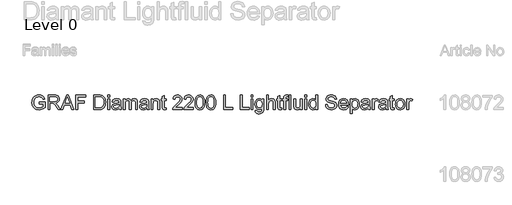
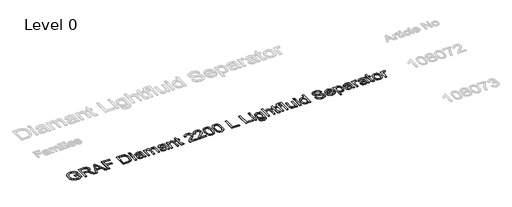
# One storey, part 5 of 8: 1 proxy.
"""IFC4 building model written with IfcOpenShell, lengths in millimetres."""

from ifc_helpers import new_model, si_unit, origin, origin_with_axes, place, context, project, spatial, polyline, outline, extrude, element, save

model = new_model("IFC4")

# Units and contexts
model_context = context("Model", 3, world=origin())
ifc_project = project(units=[si_unit("LENGTHUNIT", "METRE", prefix="MILLI")], contexts=[model_context])

# Site, building, storey
site = spatial("IfcSite", under=ifc_project)
building = spatial("IfcBuilding", under=site)
storey = spatial("IfcBuildingStorey", under=building, Name="Level 0", Elevation=0.0)

# Proxy
placement = place(None, origin())
element("IfcBuildingElementProxy", 1, Name="400mm Arial", ObjectType="400mm Arial", at=placement, inside=storey, context=model_context, shape_type="SweptSolid", body=[
    extrude(outline(polyline([(-14937.8149833, 10305.9861864), (-14937.8149833, 10356.2143415), (-14774.5734793, 10356.2143415), (-14774.5734793, 10206.0203856), (-14814.2434211, 10178.429236), (-14855.1641617, 10158.6371846), (-14897.2375993, 10146.717808), (-14940.3656318, 10142.7446824), (-14969.2167773, 10144.3235093), (-14996.7128907, 10149.05999), (-15022.8539722, 10156.9541245), (-15047.6400216, 10168.0059128), (-15070.2708957, 10182.0498079), (-15089.9464511, 10198.9202631), (-15106.6666877, 10218.6172783), (-15120.4316057, 10241.1408534), (-15131.182957, 10265.770553), (-15138.8624937, 10291.7859414), (-15143.4702157, 10319.1870187), (-15145.006123, 10347.9737848), (-15138.8870191, 10404.5662984), (-15131.2381393, 10431.3818302), (-15120.5297076, 10457.2102119), (-15106.9517963, 10480.9171408), (-15090.6944778, 10501.3683141), (-15071.7577521, 10518.5637317), (-15050.1416192, 10532.5033936), (-15026.3151286, 10543.2762047), (-15000.74733, 10550.9710698), (-14973.4382232, 10555.5879888), (-14944.3878083, 10557.1269618), (-14903.0133466, 10553.5585065), (-14865.8082141, 10542.8531404), (-14834.4769309, 10525.7834158), (-14810.7240167, 10503.1218849), (-14793.1515201, 10473.7771644), (-14780.3614894, 10436.6578711), (-14826.6655698, 10423.610323), (-14837.0030539, 10450.0855639), (-14849.5723554, 10470.0615563), (-14866.2006216, 10485.1201926), (-14888.7149997, 10496.8433655), (-14915.5581226, 10504.3849464), (-14945.1726232, 10506.8988067), (-14979.8393699, 10504.1887427), (-15009.478396, 10496.0585506), (-15033.9793369, 10483.5260373), (-15053.2318279, 10467.6090096), (-15068.0084214, 10449.1290708), (-15079.0816695, 10428.9078238), (-15090.8538933, 10390.9914528), (-15094.7779679, 10350.033924), (-15090.0568157, 10302.0007981), (-15075.8933588, 10262.4780091), (-15052.7167931, 10231.7475998), (-15020.9563142, 10210.091613), (-14983.78797, 10197.2525314), (-14944.3878083, 10192.9728375), (-14909.5984343, 10196.1979363), (-14875.6674516, 10205.8732328), (-14846.2001038, 10219.2028238), (-14824.8016344, 10233.390806), (-14824.8016344, 10305.9861864), (-14937.8149833, 10305.9861864)])), origin_with_axes(), (0.0, 0.0, 1.0), 5.0),
    extrude(outline(polyline([(-14692.9527273, 10149.0232018), (-14692.9527273, 10550.8484424), (-14519.8029349, 10550.8484424), (-14473.2658625, 10548.1383784), (-14439.4084563, 10540.0081863), (-14414.6622607, 10524.9986009), (-14395.4588206, 10501.6503569), (-14383.1347737, 10472.6980439), (-14379.0267581, 10440.8762513), (-14380.7282123, 10420.2380714), (-14385.832575, 10401.2921486), (-14394.3398462, 10384.0384831), (-14406.2500258, 10368.4770747), (-14421.716398, 10355.1045642), (-14440.892247, 10344.4175922), (-14463.7775727, 10336.4161588), (-14490.3723753, 10331.100264), (-14461.8247325, 10309.6159554), (-14421.1124584, 10257.9162724), (-14354.1088843, 10149.0232018), (-14412.4794942, 10149.0232018), (-14464.7677885, 10232.3116855), (-14502.5370066, 10287.4449339), (-14516.5778361, 10303.5213771), (-14529.0735612, 10313.4909791), (-14552.9613654, 10323.055911), (-14582.0976194, 10324.8217446), (-14642.7245723, 10324.8217446), (-14642.7245723, 10149.0232018), (-14692.9527273, 10149.0232018)]), holes=[polyline([(-14642.7245723, 10375.0498997), (-14530.2998345, 10375.0498997), (-14498.0120581, 10376.827996), (-14472.9592942, 10382.1622849), (-14454.0992106, 10391.4083857), (-14440.3894749, 10404.9219177), (-14432.0385536, 10421.268141), (-14429.2549132, 10439.0123159), (-14434.5646766, 10463.5132568), (-14450.493967, 10483.2562572), (-14462.6555327, 10490.8530204), (-14477.9011757, 10496.2792798), (-14517.6446939, 10500.6202873), (-14642.7245723, 10500.6202873), (-14642.7245723, 10375.0498997)])]), origin_with_axes(), (0.0, 0.0, 1.0), 5.0),
    extrude(outline(polyline([(-14337.9220765, 10149.0232018), (-14177.5255266, 10550.8484424), (-14134.7531133, 10550.8484424), (-13974.3565634, 10149.0232018), (-14027.4296726, 10149.0232018), (-14073.4394475, 10274.5935895), (-14238.9372943, 10274.5935895), (-14284.8489673, 10149.0232018), (-14337.9220765, 10149.0232018)]), holes=[polyline([(-14220.4941437, 10324.8217446), (-14091.7844963, 10324.8217446), (-14127.9840846, 10423.610323), (-14156.13932, 10500.6202873), (-14181.1552956, 10432.2432872), (-14220.4941437, 10324.8217446)])]), origin_with_axes(), (0.0, 0.0, 1.0), 5.0),
    extrude(outline(polyline([(-13920.6948431, 10149.0232018), (-13920.6948431, 10550.8484424), (-13650.7185095, 10550.8484424), (-13650.7185095, 10500.6202873), (-13870.466688, 10500.6202873), (-13870.466688, 10381.328419), (-13682.1111064, 10381.328419), (-13682.1111064, 10331.100264), (-13870.466688, 10331.100264), (-13870.466688, 10149.0232018), (-13920.6948431, 10149.0232018)])), origin_with_axes(), (0.0, 0.0, 1.0), 5.0),
    extrude(outline(polyline([(-13424.6918117, 10149.0232018), (-13424.6918117, 10550.8484424), (-13286.0738759, 10550.8484424), (-13244.6503633, 10549.4014399), (-13214.3614123, 10545.0604324), (-13182.3311533, 10533.9013452), (-13155.3040894, 10516.3165858), (-13127.516736, 10485.7088038), (-13107.7246846, 10447.64528), (-13095.8788844, 10402.8617785), (-13091.9302843, 10352.0940632), (-13094.6035602, 10308.9660306), (-13102.6233876, 10271.0128714), (-13114.8370699, 10238.7005695), (-13130.09191, 10212.4951087), (-13147.6521439, 10191.8078779), (-13166.7820076, 10176.0502657), (-13188.7445627, 10164.363881), (-13214.8028707, 10155.8903324), (-13245.0059825, 10150.7399845), (-13279.4029491, 10149.0232018), (-13424.6918117, 10149.0232018)]), holes=[polyline([(-13374.4636566, 10199.2513569), (-13285.5833666, 10199.2513569), (-13248.8196925, 10201.0662414), (-13220.9342373, 10206.5108949), (-13199.8913872, 10215.2664864), (-13183.6555284, 10227.0141848), (-13166.2056591, 10248.7560107), (-13153.0967974, 10276.8989833), (-13144.8930289, 10311.56573), (-13142.1584394, 10352.8788781), (-13147.5172538, 10407.619719), (-13154.2157718, 10429.6190623), (-13163.593697, 10448.0376875), (-13187.3466111, 10475.8005154), (-13215.7348384, 10492.5759344), (-13244.6258378, 10498.6091991), (-13286.9567927, 10500.6202873), (-13374.4636566, 10500.6202873), (-13374.4636566, 10199.2513569)])]), origin_with_axes(), (0.0, 0.0, 1.0), 5.0),
    extrude(outline(polyline([(-13029.1450905, 10500.6202873), (-13029.1450905, 10550.8484424), (-12978.9169354, 10550.8484424), (-12978.9169354, 10500.6202873), (-13029.1450905, 10500.6202873)])), origin_with_axes(), (0.0, 0.0, 1.0), 5.0),
    extrude(outline(polyline([(-13029.1450905, 10149.0232018), (-13029.1450905, 10444.1136129), (-12978.9169354, 10444.1136129), (-12978.9169354, 10149.0232018), (-13029.1450905, 10149.0232018)])), origin_with_axes(), (0.0, 0.0, 1.0), 5.0),
    extrude(outline(polyline([(-12715.2191213, 10186.6943181), (-12739.2172901, 10166.1174519), (-12763.9266974, 10152.6529708), (-12789.911429, 10145.2217545), (-12817.7355706, 10142.7446824), (-12840.0997302, 10144.2346045), (-12859.7109062, 10148.7043708), (-12876.5690987, 10156.1539812), (-12890.6743075, 10166.5834357), (-12901.8119349, 10179.3305469), (-12909.767383, 10193.733127), (-12914.5406519, 10209.7911761), (-12916.1317416, 10227.5046941), (-12913.7282459, 10248.3268151), (-12906.5177588, 10267.2359496), (-12895.3954598, 10283.4227574), (-12881.2565284, 10296.077898), (-12864.640525, 10305.6428299), (-12846.0870097, 10312.5590114), (-12802.6278833, 10320.112855), (-12751.2715568, 10328.0591061), (-12715.5134269, 10337.3787834), (-12715.2191213, 10348.562396), (-12718.677212, 10370.9786722), (-12729.0514843, 10385.6449011), (-12752.2525754, 10396.5342082), (-12784.5771401, 10400.1639772), (-12814.498209, 10397.7482188), (-12835.3939063, 10390.5009435), (-12849.6432023, 10377.0977761), (-12859.6250671, 10356.2143415), (-12909.8532222, 10362.4928609), (-12901.1344189, 10389.9613832), (-12888.123659, 10411.5437936), (-12869.6069319, 10428.0494324), (-12844.370227, 10440.2876401), (-12813.5049276, 10447.8660092), (-12778.102417, 10450.3921323), (-12744.1469088, 10448.1603148), (-12717.2302095, 10441.4648625), (-12696.9353861, 10431.3971586), (-12682.8455057, 10419.0485863), (-12673.501303, 10403.7814835), (-12667.4435128, 10384.9581881), (-12664.9909662, 10341.0085524), (-12664.9909662, 10278.5176641), (-12662.4403177, 10191.2560549), (-12652.4339274, 10149.0232018), (-12702.6620825, 10149.0232018), (-12710.7064355, 10166.4853339), (-12715.2191213, 10186.6943181)]), holes=[polyline([(-12715.2191213, 10287.1506283), (-12748.9661629, 10278.7874443), (-12796.2512621, 10271.7486354), (-12839.4651338, 10263.6061806), (-12850.7100601, 10258.0388997), (-12859.0364559, 10250.3624288), (-12864.1868038, 10241.1653789), (-12865.9035865, 10231.0363613), (-12862.1634529, 10216.1003523), (-12850.943052, 10203.8621446), (-12832.4876386, 10195.6951643), (-12807.0424673, 10192.9728375), (-12780.0644543, 10195.9772071), (-12756.225701, 10204.990316), (-12736.8996335, 10218.270856), (-12723.459678, 10234.0775191), (-12717.4999896, 10250.3624288), (-12715.5134269, 10272.9258578), (-12715.2191213, 10287.1506283)])]), origin_with_axes(), (0.0, 0.0, 1.0), 5.0),
    extrude(outline(polyline([(-12595.927253, 10149.0232018), (-12595.927253, 10444.1136129), (-12545.6990979, 10444.1136129), (-12545.6990979, 10395.5531895), (-12530.5914106, 10417.8591012), (-12511.1672413, 10435.3334959), (-12488.0887774, 10446.6274732), (-12462.0182067, 10450.3921323), (-12434.0837005, 10446.5538968), (-12411.6919498, 10435.0391903), (-12394.9655817, 10416.6083024), (-12384.0272237, 10392.0215224), (-12365.7189631, 10417.5586642), (-12344.8355285, 10435.7994798), (-12321.37692, 10446.7439692), (-12295.3431374, 10450.3921323), (-12275.2353207, 10448.874619), (-12257.586182, 10444.3220794), (-12242.3957213, 10436.7345132), (-12229.6639386, 10426.1119206), (-12219.5993003, 10412.3316742), (-12212.410273, 10395.2711467), (-12208.0968566, 10374.930338), (-12206.6590511, 10351.3092482), (-12206.6590511, 10149.0232018), (-12256.8872062, 10149.0232018), (-12256.8872062, 10329.7268379), (-12258.0521659, 10354.7796017), (-12261.5470448, 10371.6653853), (-12268.0953443, 10383.2291427), (-12278.4205657, 10392.315828), (-12291.7011057, 10398.2019399), (-12307.1153613, 10400.1639772), (-12334.3263662, 10395.1362566), (-12356.5096505, 10380.0530948), (-12365.1150235, 10368.483206), (-12371.2617185, 10353.8844222), (-12376.1790745, 10315.6001692), (-12376.1790745, 10149.0232018), (-12426.4072296, 10149.0232018), (-12426.4072296, 10335.3186442), (-12429.3134973, 10363.7191342), (-12438.0323006, 10383.9771694), (-12453.3729798, 10396.1172752), (-12476.1448753, 10400.1639772), (-12495.4954683, 10397.4661759), (-12513.3254823, 10389.372772), (-12528.0407621, 10376.0799692), (-12538.0471524, 10357.7839714), (-12543.7861115, 10332.4001137), (-12545.6990979, 10297.8437316), (-12545.6990979, 10149.0232018), (-12595.927253, 10149.0232018)])), origin_with_axes(), (0.0, 0.0, 1.0), 5.0),
    extrude(outline(polyline([(-11942.961237, 10186.6943181), (-11966.9594058, 10166.1174519), (-11991.6688131, 10152.6529708), (-12017.6535447, 10145.2217545), (-12045.4776863, 10142.7446824), (-12067.8418459, 10144.2346045), (-12087.453022, 10148.7043708), (-12104.3112144, 10156.1539812), (-12118.4164232, 10166.5834357), (-12129.5540506, 10179.3305469), (-12137.5094988, 10193.733127), (-12142.2827677, 10209.7911761), (-12143.8738573, 10227.5046941), (-12141.4703616, 10248.3268151), (-12134.2598745, 10267.2359496), (-12123.1375755, 10283.4227574), (-12108.9986441, 10296.077898), (-12092.3826407, 10305.6428299), (-12073.8291254, 10312.5590114), (-12030.369999, 10320.112855), (-11979.0136725, 10328.0591061), (-11943.2555426, 10337.3787834), (-11942.961237, 10348.562396), (-11946.4193277, 10370.9786722), (-11956.7936, 10385.6449011), (-11979.9946912, 10396.5342082), (-12012.3192558, 10400.1639772), (-12042.2403247, 10397.7482188), (-12063.1360221, 10390.5009435), (-12077.385318, 10377.0977761), (-12087.3671828, 10356.2143415), (-12137.5953379, 10362.4928609), (-12128.8765346, 10389.9613832), (-12115.8657747, 10411.5437936), (-12097.3490476, 10428.0494324), (-12072.1123428, 10440.2876401), (-12041.2470434, 10447.8660092), (-12005.8445327, 10450.3921323), (-11971.8890245, 10448.1603148), (-11944.9723252, 10441.4648625), (-11924.6775018, 10431.3971586), (-11910.5876214, 10419.0485863), (-11901.2434187, 10403.7814835), (-11895.1856285, 10384.9581881), (-11892.7330819, 10341.0085524), (-11892.7330819, 10278.5176641), (-11890.1824334, 10191.2560549), (-11880.1760431, 10149.0232018), (-11930.4041982, 10149.0232018), (-11938.4485512, 10166.4853339), (-11942.961237, 10186.6943181)]), holes=[polyline([(-11942.961237, 10287.1506283), (-11976.7082787, 10278.7874443), (-12023.9933778, 10271.7486354), (-12067.2072495, 10263.6061806), (-12078.4521758, 10258.0388997), (-12086.7785716, 10250.3624288), (-12091.9289196, 10241.1653789), (-12093.6457022, 10231.0363613), (-12089.9055686, 10216.1003523), (-12078.6851677, 10203.8621446), (-12060.2297543, 10195.6951643), (-12034.784583, 10192.9728375), (-12007.80657, 10195.9772071), (-11983.9678167, 10204.990316), (-11964.6417492, 10218.270856), (-11951.2017937, 10234.0775191), (-11945.2421054, 10250.3624288), (-11943.2555426, 10272.9258578), (-11942.961237, 10287.1506283)])]), origin_with_axes(), (0.0, 0.0, 1.0), 5.0),
    extrude(outline(polyline([(-11823.6693687, 10149.0232018), (-11823.6693687, 10444.1136129), (-11773.4412136, 10444.1136129), (-11773.4412136, 10402.9108294), (-11755.9913443, 10423.6838994), (-11735.0343333, 10438.5218066), (-11710.5701806, 10447.4245508), (-11682.5988863, 10450.3921323), (-11657.840428, 10448.0008993), (-11635.1666344, 10440.8272004), (-11616.2574998, 10429.7662151), (-11602.7930188, 10415.7131229), (-11593.6572826, 10398.7047119), (-11587.7343824, 10378.7777705), (-11585.0856321, 10330.2173472), (-11585.0856321, 10149.0232018), (-11635.3137871, 10149.0232018), (-11635.3137871, 10323.4483185), (-11636.7607897, 10349.4207873), (-11641.1017972, 10367.8884635), (-11649.109362, 10381.1199526), (-11661.5560361, 10391.3838602), (-11677.509852, 10397.968948), (-11696.0388418, 10400.1639772), (-11725.4571387, 10395.2343585), (-11750.534428, 10380.4455023), (-11760.5561467, 10368.3728414), (-11767.7145172, 10351.873334), (-11772.0095395, 10330.9469798), (-11773.4412136, 10305.593779), (-11773.4412136, 10149.0232018), (-11823.6693687, 10149.0232018)])), origin_with_axes(), (0.0, 0.0, 1.0), 5.0),
    extrude(outline(polyline([(-11409.2870893, 10190.9126983), (-11403.0085699, 10147.5516738), (-11440.5815844, 10142.7446824), (-11464.6901178, 10144.8293471), (-11482.6672846, 10151.083341), (-11495.3714762, 10160.7218493), (-11503.6610838, 10172.960057), (-11508.2228205, 10193.9783816), (-11509.7433995, 10229.9572408), (-11509.7433995, 10393.8854578), (-11547.4145158, 10393.8854578), (-11547.4145158, 10444.1136129), (-11509.7433995, 10444.1136129), (-11509.7433995, 10515.8260765), (-11459.5152444, 10545.354738), (-11459.5152444, 10444.1136129), (-11409.2870893, 10444.1136129), (-11409.2870893, 10393.8854578), (-11459.5152444, 10393.8854578), (-11459.5152444, 10231.4287687), (-11456.866494, 10205.5298763), (-11448.2825808, 10196.3573519), (-11431.1638053, 10192.9728375), (-11409.2870893, 10190.9126983)])), origin_with_axes(), (0.0, 0.0, 1.0), 5.0),
    extrude(outline(polyline([(-10957.2336936, 10199.2513569), (-10957.2336936, 10149.0232018), (-11220.9315078, 10149.0232018), (-11219.8278618, 10166.7060631), (-11215.5359052, 10183.6531603), (-11203.1505447, 10210.7170124), (-11185.0262251, 10236.9715241), (-11158.8085015, 10264.4523092), (-11122.1429293, 10295.1949812), (-11067.9416487, 10343.3384717), (-11035.4208803, 10378.8758724), (-11019.1604962, 10407.7178208), (-11013.7403681, 10435.7749543), (-11018.8539278, 10460.9258201), (-11034.194607, 10481.8337801), (-11057.7758429, 10495.9236605), (-11087.6110727, 10500.6202873), (-11118.942356, 10496.0340251), (-11143.2838813, 10482.2752385), (-11158.9924425, 10460.423048), (-11164.4248333, 10431.5565741), (-11214.6529884, 10437.8350935), (-11210.3334406, 10463.7646428), (-11202.4760944, 10486.4200423), (-11191.0809496, 10505.8012921), (-11176.1480062, 10521.9083921), (-11158.0206209, 10534.5696641), (-11137.0421501, 10543.6134298), (-11113.2125939, 10549.0396893), (-11086.5319522, 10550.8484424), (-11059.6121872, 10548.8373542), (-11035.6538723, 10542.8040895), (-11014.6570074, 10532.7486483), (-10996.6215926, 10518.6710306), (-10982.136239, 10501.6135687), (-10971.7895579, 10482.618595), (-10965.5815492, 10461.6861095), (-10963.512213, 10438.8161122), (-10965.7440305, 10414.7934179), (-10972.4394828, 10391.1876565), (-10984.3220712, 10367.177225), (-11002.1152971, 10341.9405201), (-11030.4789989, 10311.8109847), (-11074.0730153, 10273.1220615), (-11131.855014, 10224.8068928), (-11154.5165449, 10199.2513569), (-10957.2336936, 10199.2513569)])), origin_with_axes(), (0.0, 0.0, 1.0), 5.0),
    extrude(outline(polyline([(-10649.5862438, 10199.2513569), (-10649.5862438, 10149.0232018), (-10913.2840579, 10149.0232018), (-10912.180412, 10166.7060631), (-10907.8884554, 10183.6531603), (-10895.5030948, 10210.7170124), (-10877.3787752, 10236.9715241), (-10851.1610517, 10264.4523092), (-10814.4954795, 10295.1949812), (-10760.2941989, 10343.3384717), (-10727.7734305, 10378.8758724), (-10711.5130463, 10407.7178208), (-10706.0929183, 10435.7749543), (-10711.206478, 10460.9258201), (-10726.5471572, 10481.8337801), (-10750.1283931, 10495.9236605), (-10779.9636229, 10500.6202873), (-10811.2949062, 10496.0340251), (-10835.6364315, 10482.2752385), (-10851.3449927, 10460.423048), (-10856.7773835, 10431.5565741), (-10907.0055386, 10437.8350935), (-10902.6859908, 10463.7646428), (-10894.8286445, 10486.4200423), (-10883.4334997, 10505.8012921), (-10868.5005564, 10521.9083921), (-10850.3731711, 10534.5696641), (-10829.3947003, 10543.6134298), (-10805.5651441, 10549.0396893), (-10778.8845024, 10550.8484424), (-10751.9647374, 10548.8373542), (-10728.0064224, 10542.8040895), (-10707.0095576, 10532.7486483), (-10688.9741428, 10518.6710306), (-10674.4887892, 10501.6135687), (-10664.1421081, 10482.618595), (-10657.9340994, 10461.6861095), (-10655.8647632, 10438.8161122), (-10658.0965806, 10414.7934179), (-10664.7920329, 10391.1876565), (-10676.6746214, 10367.177225), (-10694.4678472, 10341.9405201), (-10722.831549, 10311.8109847), (-10766.4255655, 10273.1220615), (-10824.2075642, 10224.8068928), (-10846.8690951, 10199.2513569), (-10649.5862438, 10199.2513569)])), origin_with_axes(), (0.0, 0.0, 1.0), 5.0),
    extrude(outline(polyline([(-10599.3580887, 10346.6984606), (-10595.667006, 10411.0164961), (-10584.593758, 10462.3115089), (-10566.2487092, 10501.3683141), (-10554.3906462, 10516.6016944), (-10540.7422242, 10528.9717264), (-10525.2574579, 10538.5427897), (-10507.890362, 10545.3792634), (-10467.5091817, 10550.8484424), (-10436.5580431, 10547.6110809), (-10408.8442662, 10537.8989962), (-10385.6677005, 10522.0923331), (-10368.3281958, 10500.5712364), (-10355.2315967, 10473.519647), (-10344.7837481, 10441.121506), (-10337.941143, 10399.9800362), (-10335.6602746, 10346.6984606), (-10339.3145691, 10282.7483071), (-10350.2774525, 10231.5759215), (-10368.5121368, 10192.4823282), (-10380.3426086, 10177.2029627), (-10393.9818336, 10164.7685512), (-10409.484994, 10155.1331086), (-10426.9072721, 10148.2506496), (-10467.5091817, 10142.7446824), (-10495.1739077, 10145.1359154), (-10519.699374, 10152.3096143), (-10541.0855807, 10164.2657792), (-10559.3325277, 10181.0044099), (-10576.8437106, 10211.262704), (-10589.3516985, 10248.9644772), (-10596.8564912, 10294.1097294), (-10599.3580887, 10346.6984606)]), holes=[polyline([(-10549.1299337, 10346.7965624), (-10547.6584057, 10303.1320353), (-10543.2438217, 10267.7877726), (-10535.8861818, 10240.7637744), (-10525.585486, 10222.0600406), (-10513.1265491, 10209.3343892), (-10499.294186, 10200.2446383), (-10484.0883969, 10194.7907877), (-10467.5091817, 10192.9728375), (-10450.9299664, 10194.7969191), (-10435.7241773, 10200.2691637), (-10421.8918143, 10209.3895715), (-10409.4328774, 10222.1581425), (-10399.1321815, 10240.8925331), (-10391.7745416, 10267.9103999), (-10387.3599576, 10303.2117431), (-10385.8884297, 10346.7965624), (-10387.3109067, 10389.305327), (-10391.5783379, 10424.0272559), (-10398.6907231, 10450.9623494), (-10408.6480624, 10470.1106072), (-10420.8985329, 10483.4585923), (-10434.8903114, 10492.9928673), (-10450.6233981, 10498.7134323), (-10468.0977929, 10500.6202873), (-10484.591169, 10498.9402929), (-10499.5394407, 10493.9003096), (-10512.9426081, 10485.5003373), (-10524.800671, 10473.7403762), (-10535.4447234, 10452.8937298), (-10543.047618, 10424.7875454), (-10547.6093547, 10389.4218229), (-10549.1299337, 10346.7965624)])]), origin_with_axes(), (0.0, 0.0, 1.0), 5.0),
    extrude(outline(polyline([(-10291.7106389, 10346.6984606), (-10288.0195562, 10411.0164961), (-10276.9463082, 10462.3115089), (-10258.6012593, 10501.3683141), (-10246.7431964, 10516.6016944), (-10233.0947743, 10528.9717264), (-10217.610008, 10538.5427897), (-10200.2429122, 10545.3792634), (-10159.8617318, 10550.8484424), (-10128.9105933, 10547.6110809), (-10101.1968163, 10537.8989962), (-10078.0202506, 10522.0923331), (-10060.6807459, 10500.5712364), (-10047.5841469, 10473.519647), (-10037.1362982, 10441.121506), (-10030.2936931, 10399.9800362), (-10028.0128248, 10346.6984606), (-10031.6671192, 10282.7483071), (-10042.6300027, 10231.5759215), (-10060.8646869, 10192.4823282), (-10072.6951588, 10177.2029627), (-10086.3343837, 10164.7685512), (-10101.8375441, 10155.1331086), (-10119.2598223, 10148.2506496), (-10159.8617318, 10142.7446824), (-10187.5264579, 10145.1359154), (-10212.0519242, 10152.3096143), (-10233.4381309, 10164.2657792), (-10251.6850778, 10181.0044099), (-10269.1962608, 10211.262704), (-10281.7042486, 10248.9644772), (-10289.2090413, 10294.1097294), (-10291.7106389, 10346.6984606)]), holes=[polyline([(-10241.4824838, 10346.7965624), (-10240.0109558, 10303.1320353), (-10235.5963719, 10267.7877726), (-10228.238732, 10240.7637744), (-10217.9380361, 10222.0600406), (-10205.4790992, 10209.3343892), (-10191.6467362, 10200.2446383), (-10176.4409471, 10194.7907877), (-10159.8617318, 10192.9728375), (-10143.2825166, 10194.7969191), (-10128.0767274, 10200.2691637), (-10114.2443644, 10209.3895715), (-10101.7854275, 10222.1581425), (-10091.4847317, 10240.8925331), (-10084.1270918, 10267.9103999), (-10079.7125078, 10303.2117431), (-10078.2409798, 10346.7965624), (-10079.6634569, 10389.305327), (-10083.930888, 10424.0272559), (-10091.0432733, 10450.9623494), (-10101.0006126, 10470.1106072), (-10113.251083, 10483.4585923), (-10127.2428616, 10492.9928673), (-10142.9759482, 10498.7134323), (-10160.450343, 10500.6202873), (-10176.9437191, 10498.9402929), (-10191.8919909, 10493.9003096), (-10205.2951582, 10485.5003373), (-10217.1532212, 10473.7403762), (-10227.7972736, 10452.8937298), (-10235.4001682, 10424.7875454), (-10239.9619049, 10389.4218229), (-10241.4824838, 10346.7965624)])]), origin_with_axes(), (0.0, 0.0, 1.0), 5.0),
    extrude(outline(polyline([(-9808.2646463, 10149.0232018), (-9808.2646463, 10550.8484424), (-9758.0364912, 10550.8484424), (-9758.0364912, 10199.2513569), (-9557.1238709, 10199.2513569), (-9557.1238709, 10149.0232018), (-9808.2646463, 10149.0232018)])), origin_with_axes(), (0.0, 0.0, 1.0), 5.0),
    extrude(outline(polyline([(-9343.6542119, 10149.0232018), (-9343.6542119, 10550.8484424), (-9293.4260568, 10550.8484424), (-9293.4260568, 10199.2513569), (-9092.5134365, 10199.2513569), (-9092.5134365, 10149.0232018), (-9343.6542119, 10149.0232018)])), origin_with_axes(), (0.0, 0.0, 1.0), 5.0),
    extrude(outline(polyline([(-9042.2852814, 10500.6202873), (-9042.2852814, 10550.8484424), (-8992.0571263, 10550.8484424), (-8992.0571263, 10500.6202873), (-9042.2852814, 10500.6202873)])), origin_with_axes(), (0.0, 0.0, 1.0), 5.0),
    extrude(outline(polyline([(-9042.2852814, 10149.0232018), (-9042.2852814, 10444.1136129), (-8992.0571263, 10444.1136129), (-8992.0571263, 10149.0232018), (-9042.2852814, 10149.0232018)])), origin_with_axes(), (0.0, 0.0, 1.0), 5.0),
    extrude(outline(polyline([(-8929.2719325, 10123.9091243), (-8879.0437774, 10117.6306049), (-8873.501022, 10101.9343064), (-8862.7588678, 10091.1431012), (-8841.6424412, 10082.7553918), (-8814.0022407, 10079.9594886), (-8784.5226301, 10083.1232738), (-8762.5968632, 10092.6146292), (-8747.3910741, 10107.8204184), (-8738.0713969, 10128.1275045), (-8734.6378316, 10186.6943181), (-8751.3519369, 10170.2132047), (-8770.003554, 10158.4409809), (-8790.592683, 10151.3776466), (-8813.1193239, 10149.0232018), (-8840.6583569, 10151.7639227), (-8864.9048461, 10159.9860853), (-8885.8587914, 10173.6896896), (-8903.5201928, 10192.8747356), (-8917.5334312, 10215.8918858), (-8927.5428871, 10241.0918025), (-8933.5485607, 10268.4744857), (-8935.5504519, 10298.0399353), (-8931.9574711, 10338.5927939), (-8921.1785286, 10375.8837655), (-8903.5937692, 10407.4848289), (-8879.5833377, 10430.9679629), (-8849.9688371, 10445.5360899), (-8815.5718705, 10450.3921323), (-8792.0826051, 10447.64528), (-8770.7638435, 10439.4047233), (-8751.6155857, 10425.6704622), (-8734.6378316, 10406.4424966), (-8734.6378316, 10444.1136129), (-8684.4096765, 10444.1136129), (-8684.4096765, 10189.3430685), (-8687.8432418, 10130.5187375), (-8698.1439377, 10091.7807634), (-8715.8881126, 10066.0903374), (-8741.652115, 10046.4086506), (-8774.8718591, 10033.9006628), (-8814.9832593, 10029.7313335), (-8839.5914991, 10031.1997958), (-8861.7165354, 10035.6051827), (-8881.3583683, 10042.9474942), (-8898.5169977, 10053.2267303), (-8912.3769519, 10066.4551537), (-8922.1227591, 10082.6450272), (-8927.7544193, 10101.7963507), (-8929.2719325, 10123.9091243)]), holes=[polyline([(-8885.3222968, 10301.4735006), (-8879.9634824, 10255.4024121), (-8873.2649644, 10237.7655361), (-8863.8870392, 10223.7277723), (-8852.4857631, 10213.0193406), (-8839.7171921, 10205.3704607), (-8825.5813265, 10200.7811329), (-8810.0781661, 10199.2513569), (-8794.7282898, 10200.7719358), (-8780.6598692, 10205.3336726), (-8767.8729042, 10212.9365671), (-8756.3673948, 10223.5806195), (-8746.8607109, 10237.4804276), (-8740.0702224, 10254.8505891), (-8734.6378316, 10300.0019726), (-8740.2296379, 10343.5469381), (-8747.2193958, 10360.7484871), (-8757.0050569, 10374.9027469), (-8768.7588866, 10385.9545351), (-8781.6531506, 10393.8486696), (-8795.6878487, 10398.5851503), (-8810.862981, 10400.1639772), (-8825.7836616, 10398.6096758), (-8839.5455139, 10393.9467715), (-8863.5927336, 10375.2951543), (-8873.0994175, 10361.3554924), (-8879.889906, 10344.4053295), (-8885.3222968, 10301.4735006)])]), origin_with_axes(), (0.0, 0.0, 1.0), 5.0),
    extrude(outline(polyline([(-8609.0674439, 10149.0232018), (-8609.0674439, 10550.8484424), (-8558.8392888, 10550.8484424), (-8558.8392888, 10403.1070332), (-8540.3900068, 10423.794264), (-8519.6721191, 10438.5708575), (-8496.6856257, 10447.4368136), (-8471.4305268, 10450.3921323), (-8441.0925249, 10447.1670334), (-8415.0219542, 10437.491737), (-8394.4941388, 10422.1265323), (-8380.7844032, 10401.8317089), (-8373.0588813, 10373.9462537), (-8370.4837073, 10335.8091535), (-8370.4837073, 10149.0232018), (-8420.7118624, 10149.0232018), (-8420.7118624, 10330.6097546), (-8424.7095134, 10362.0514025), (-8436.7024664, 10383.5847619), (-8456.0285339, 10396.0191734), (-8482.0255282, 10400.1639772), (-8503.2523193, 10397.368074), (-8523.1792608, 10388.9803645), (-8539.6848996, 10375.8101891), (-8550.6477831, 10358.6668881), (-8556.7914124, 10335.8827299), (-8558.8392888, 10305.7899827), (-8558.8392888, 10149.0232018), (-8609.0674439, 10149.0232018)])), origin_with_axes(), (0.0, 0.0, 1.0), 5.0),
    extrude(outline(polyline([(-8194.6851645, 10190.9126983), (-8188.4066451, 10147.5516738), (-8225.9796596, 10142.7446824), (-8250.088193, 10144.8293471), (-8268.0653598, 10151.083341), (-8280.7695514, 10160.7218493), (-8289.059159, 10172.960057), (-8293.6208958, 10193.9783816), (-8295.1414747, 10229.9572408), (-8295.1414747, 10393.8854578), (-8332.812591, 10393.8854578), (-8332.812591, 10444.1136129), (-8295.1414747, 10444.1136129), (-8295.1414747, 10515.8260765), (-8244.9133196, 10545.354738), (-8244.9133196, 10444.1136129), (-8194.6851645, 10444.1136129), (-8194.6851645, 10393.8854578), (-8244.9133196, 10393.8854578), (-8244.9133196, 10231.4287687), (-8242.2645692, 10205.5298763), (-8233.680656, 10196.3573519), (-8216.5618805, 10192.9728375), (-8194.6851645, 10190.9126983)])), origin_with_axes(), (0.0, 0.0, 1.0), 5.0),
    extrude(outline(polyline([(-8131.8999707, 10149.0232018), (-8131.8999707, 10393.8854578), (-8175.8496064, 10393.8854578), (-8175.8496064, 10444.1136129), (-8131.8999707, 10444.1136129), (-8131.8999707, 10473.8384781), (-8130.5755955, 10498.4375208), (-8126.60247, 10515.7279746), (-8116.4979778, 10532.4298172), (-8100.8997812, 10545.6490436), (-8079.0721162, 10554.2574822), (-8050.2792187, 10557.1269618), (-8004.4656476, 10551.6332573), (-8011.8232875, 10504.544362), (-8040.7633377, 10506.8988067), (-8059.8564133, 10504.8141421), (-8072.4011893, 10498.5601482), (-8079.354159, 10486.6162461), (-8081.6718156, 10467.4618568), (-8081.6718156, 10444.1136129), (-8025.1651411, 10444.1136129), (-8025.1651411, 10393.8854578), (-8081.6718156, 10393.8854578), (-8081.6718156, 10149.0232018), (-8131.8999707, 10149.0232018)])), origin_with_axes(), (0.0, 0.0, 1.0), 5.0),
    extrude(outline(polyline([(-7981.2155055, 10149.0232018), (-7981.2155055, 10550.8484424), (-7930.9873504, 10550.8484424), (-7930.9873504, 10149.0232018), (-7981.2155055, 10149.0232018)])), origin_with_axes(), (0.0, 0.0, 1.0), 5.0),
    extrude(outline(polyline([(-7667.2895362, 10149.0232018), (-7667.2895362, 10199.7418662), (-7685.4629068, 10174.8055983), (-7706.6283843, 10156.9939784), (-7730.7859686, 10146.3070064), (-7757.9356599, 10142.7446824), (-7782.3998125, 10145.24628), (-7805.171708, 10152.7510727), (-7824.2770463, 10164.0327872), (-7837.7415273, 10177.8651502), (-7846.8036872, 10194.6650947), (-7852.7020618, 10214.8495535), (-7855.6451178, 10261.5460414), (-7855.6451178, 10444.1136129), (-7805.4169627, 10444.1136129), (-7805.4169627, 10285.188591), (-7802.3758049, 10233.9794172), (-7795.0549532, 10216.8974299), (-7782.5101771, 10203.9111955), (-7765.5753426, 10195.707427), (-7745.0843155, 10192.9728375), (-7723.416066, 10195.7687407), (-7703.145768, 10204.1564502), (-7686.4316627, 10217.3634138), (-7675.4319911, 10234.6170794), (-7669.3251499, 10258.2473662), (-7667.2895362, 10290.5841936), (-7667.2895362, 10444.1136129), (-7617.0613812, 10444.1136129), (-7617.0613812, 10149.0232018), (-7667.2895362, 10149.0232018)])), origin_with_axes(), (0.0, 0.0, 1.0), 5.0),
    extrude(outline(polyline([(-7547.9976679, 10500.6202873), (-7547.9976679, 10550.8484424), (-7497.7695129, 10550.8484424), (-7497.7695129, 10500.6202873), (-7547.9976679, 10500.6202873)])), origin_with_axes(), (0.0, 0.0, 1.0), 5.0),
    extrude(outline(polyline([(-7547.9976679, 10149.0232018), (-7547.9976679, 10444.1136129), (-7497.7695129, 10444.1136129), (-7497.7695129, 10149.0232018), (-7547.9976679, 10149.0232018)])), origin_with_axes(), (0.0, 0.0, 1.0), 5.0),
    extrude(outline(polyline([(-7240.3502181, 10149.0232018), (-7240.3502181, 10196.4064028), (-7255.3781976, 10172.9294001), (-7273.582225, 10156.1601125), (-7294.9623003, 10146.09854), (-7319.5184235, 10142.7446824), (-7351.9901409, 10147.6007248), (-7381.7150061, 10162.1688518), (-7406.8781346, 10185.4312566), (-7425.6646418, 10216.3701324), (-7437.3632893, 10253.7346804), (-7441.2628384, 10296.2741018), (-7437.6698576, 10338.2862256), (-7426.8909151, 10376.227122), (-7408.9382738, 10407.93855), (-7383.8241962, 10431.2622685), (-7353.4494062, 10445.6096663), (-7319.7146272, 10450.3921323), (-7295.1401099, 10446.9708297), (-7273.4105467, 10436.7069221), (-7254.9919215, 10420.9738354), (-7240.3502181, 10401.1449958), (-7240.3502181, 10550.8484424), (-7190.122063, 10550.8484424), (-7190.122063, 10149.0232018), (-7240.3502181, 10149.0232018)]), holes=[polyline([(-7391.0346833, 10296.4703055), (-7389.6183376, 10272.1134517), (-7385.3693006, 10251.0368791), (-7378.2875722, 10233.2405876), (-7368.3731524, 10218.7245772), (-7343.6760078, 10199.4107724), (-7329.8007252, 10194.5823212), (-7314.9076358, 10192.9728375), (-7299.9440356, 10194.5087448), (-7286.1515265, 10199.1164668), (-7262.0797813, 10217.5473548), (-7252.5730974, 10231.4563599), (-7245.7826089, 10248.6088579), (-7240.3502181, 10292.6443327), (-7245.8807108, 10340.7878232), (-7252.7938266, 10359.3229444), (-7262.4721887, 10374.1669829), (-7274.1739019, 10385.5406679), (-7287.1570706, 10393.6647286), (-7301.421695, 10398.5391651), (-7316.967775, 10400.1639772), (-7332.15517, 10398.6035444), (-7346.0304526, 10393.922246), (-7358.5936227, 10386.120082), (-7369.8446804, 10375.1970525), (-7379.1153067, 10360.914034), (-7385.7371826, 10343.0319033), (-7391.0346833, 10296.4703055)])]), origin_with_axes(), (0.0, 0.0, 1.0), 5.0),
    extrude(outline(polyline([(-6970.3738846, 10287.1506283), (-6920.1457295, 10287.1506283), (-6914.3822449, 10259.2774358), (-6903.9589217, 10236.8734223), (-6887.6985375, 10219.0924592), (-6864.42387, 10205.0884179), (-6835.974329, 10196.0017326), (-6804.1893246, 10192.9728375), (-6776.2057675, 10195.2659686), (-6751.7048266, 10202.1453619), (-6731.8514616, 10213.034669), (-6717.8106322, 10227.3575413), (-6709.4597109, 10243.8018665), (-6706.6760704, 10261.0555321), (-6708.7607351, 10277.8677393), (-6715.014729, 10292.3990781), (-6727.7189206, 10304.7967013), (-6749.1541781, 10315.2077618), (-6822.2891188, 10334.3866765), (-6870.2977192, 10347.0786053), (-6901.0158658, 10359.1573975), (-6926.0195787, 10376.0554438), (-6943.7392281, 10396.5342082), (-6954.2974414, 10420.1522323), (-6957.8168458, 10446.4680577), (-6953.4635755, 10475.8863545), (-6940.4037647, 10503.3180886), (-6918.9807699, 10526.5682307), (-6889.5379475, 10543.4417516), (-6854.1967505, 10553.7056592), (-6815.0786317, 10557.1269618), (-6772.6986258, 10553.5462437), (-6735.6161207, 10542.8040895), (-6705.1554915, 10525.1212282), (-6682.6411134, 10500.7183892), (-6668.3918175, 10471.1161513), (-6662.7264347, 10437.8350935), (-6712.9545898, 10437.8350935), (-6722.1761652, 10467.8052134), (-6730.5393492, 10479.6632764), (-6741.4041308, 10489.4366747), (-6771.4478271, 10502.5332737), (-6813.1165944, 10506.8988067), (-6855.7663803, 10502.5823247), (-6872.0696841, 10497.1867221), (-6885.0252617, 10489.6328784), (-6901.9478335, 10470.5765911), (-6907.5886907, 10447.9395856), (-6903.5910397, 10428.6380436), (-6891.5980867, 10413.1134234), (-6863.2466476, 10399.2320095), (-6809.5849272, 10385.0562899), (-6754.2064242, 10371.5918089), (-6720.7046372, 10359.8441105), (-6692.0711552, 10341.621689), (-6672.0951629, 10319.1318364), (-6660.3597272, 10292.6198073), (-6656.4479154, 10262.3308563), (-6660.9483384, 10231.3674551), (-6674.4496077, 10202.2434638), (-6696.3999, 10177.1784372), (-6726.2473926, 10158.39193), (-6762.1404126, 10146.6564943), (-6802.2272873, 10142.7446824), (-6851.4376355, 10146.9630626), (-6891.9414432, 10159.6182033), (-6924.2046942, 10180.7591553), (-6948.6933723, 10210.4349695), (-6964.4141963, 10246.5855069), (-6970.3738846, 10287.1506283)])), origin_with_axes(), (0.0, 0.0, 1.0), 5.0),
    extrude(outline(polyline([(-6380.7816736, 10236.9224732), (-6331.5345372, 10230.6439538), (-6339.0853152, 10210.9193475), (-6349.2787121, 10193.5369232), (-6362.1147281, 10178.496681), (-6377.593363, 10165.7986208), (-6395.5552014, 10155.7125228), (-6415.8408278, 10148.508167), (-6463.3834443, 10142.7446824), (-6494.5491806, 10145.2309516), (-6522.3181399, 10152.689759), (-6546.6903221, 10165.1211048), (-6567.6657272, 10182.5249888), (-6584.5331167, 10204.4170332), (-6596.581252, 10230.31286), (-6603.8101332, 10260.2124692), (-6606.2197603, 10294.1158607), (-6603.7856078, 10329.1688835), (-6596.4831501, 10360.0648397), (-6584.3123875, 10386.8037294), (-6567.2733197, 10409.3855525), (-6546.3530969, 10427.3259312), (-6522.5388691, 10440.1404873), (-6495.8306363, 10447.829221), (-6466.2283984, 10450.3921323), (-6437.579588, 10447.8353524), (-6411.6714985, 10440.1650128), (-6388.5041299, 10427.3811135), (-6368.0774821, 10409.4836544), (-6351.4032306, 10386.9508822), (-6339.493051, 10360.2610435), (-6332.3469433, 10329.4141382), (-6329.9649074, 10294.4101663), (-6330.259213, 10280.8721089), (-6555.9916052, 10280.8721089), (-6553.0822718, 10260.8286715), (-6547.2973274, 10243.274569), (-6538.6367721, 10228.2098013), (-6527.1006059, 10215.6343684), (-6513.3264908, 10205.7199486), (-6497.9520891, 10198.6382202), (-6462.4024256, 10192.9728375), (-6435.6696673, 10195.5970624), (-6413.1552892, 10203.4697371), (-6394.8592913, 10217.0813709), (-6380.7816736, 10236.9224732)]), holes=[polyline([(-6555.9916052, 10331.100264), (-6380.1930624, 10331.100264), (-6386.9866166, 10357.6368186), (-6400.3039449, 10376.6195295), (-6414.0014178, 10386.9202254), (-6429.5873517, 10394.2778653), (-6447.0617464, 10398.6924492), (-6466.4246021, 10400.1639772), (-6500.2820084, 10395.4673504), (-6528.2778282, 10381.37747), (-6547.7387858, 10359.4149149), (-6555.9916052, 10331.100264)])]), origin_with_axes(), (0.0, 0.0, 1.0), 5.0),
    extrude(outline(polyline([(-6279.7367523, 10036.0098529), (-6279.7367523, 10444.1136129), (-6229.5085972, 10444.1136129), (-6229.5085972, 10394.8664765), (-6213.1255857, 10419.1589509), (-6194.7805369, 10436.5107183), (-6173.3943302, 10446.9217788), (-6147.8878452, 10450.3921323), (-6113.9200743, 10445.5360899), (-6084.2197346, 10430.9679629), (-6060.0376248, 10407.570668), (-6042.6245437, 10376.227122), (-6032.1031186, 10339.2181933), (-6028.5959769, 10298.8247503), (-6032.5568397, 10255.868396), (-6044.4394282, 10217.4492529), (-6063.8635975, 10185.5170957), (-6090.449203, 10162.021699), (-6121.4126043, 10147.5639366), (-6153.9701609, 10142.7446824), (-6177.0608874, 10145.9697813), (-6197.6745419, 10155.6450777), (-6215.3206149, 10170.2499929), (-6229.5085972, 10188.263948), (-6229.5085972, 10036.0098529), (-6279.7367523, 10036.0098529)]), holes=[polyline([(-6229.5085972, 10294.2139626), (-6224.0762064, 10249.1852064), (-6217.2857179, 10231.7475998), (-6207.779034, 10217.6945076), (-6183.7318143, 10199.153255), (-6169.969962, 10194.5179419), (-6155.0492814, 10192.9728375), (-6139.914003, 10194.5731242), (-6125.9007646, 10199.3739842), (-6113.0095664, 10207.3754176), (-6101.2404082, 10218.5774244), (-6091.4332874, 10233.13942), (-6084.4282011, 10251.2208201), (-6080.2251493, 10272.8216246), (-6078.824132, 10297.9418335), (-6084.293311, 10342.725335), (-6091.1297847, 10360.2978317), (-6100.700848, 10374.6574922), (-6124.7112795, 10393.7873559), (-6138.316782, 10398.5698219), (-6152.9891422, 10400.1639772), (-6167.6155172, 10398.4686543), (-6181.3773695, 10393.3826858), (-6206.3075061, 10373.0388114), (-6216.4579834, 10357.9403212), (-6223.7083244, 10339.7700163), (-6228.058529, 10318.5278968), (-6229.5085972, 10294.2139626)])]), origin_with_axes(), (0.0, 0.0, 1.0), 5.0),
    extrude(outline(polyline([(-5783.7337209, 10186.6943181), (-5807.7318898, 10166.1174519), (-5832.4412971, 10152.6529708), (-5858.4260287, 10145.2217545), (-5886.2501703, 10142.7446824), (-5908.6143299, 10144.2346045), (-5928.2255059, 10148.7043708), (-5945.0836983, 10156.1539812), (-5959.1889072, 10166.5834357), (-5970.3265346, 10179.3305469), (-5978.2819827, 10193.733127), (-5983.0552516, 10209.7911761), (-5984.6463412, 10227.5046941), (-5982.2428455, 10248.3268151), (-5975.0323584, 10267.2359496), (-5963.9100594, 10283.4227574), (-5949.7711281, 10296.077898), (-5933.1551246, 10305.6428299), (-5914.6016094, 10312.5590114), (-5871.142483, 10320.112855), (-5819.7861565, 10328.0591061), (-5784.0280265, 10337.3787834), (-5783.7337209, 10348.562396), (-5787.1918117, 10370.9786722), (-5797.566084, 10385.6449011), (-5820.7671751, 10396.5342082), (-5853.0917398, 10400.1639772), (-5883.0128087, 10397.7482188), (-5903.908506, 10390.5009435), (-5918.157802, 10377.0977761), (-5928.1396668, 10356.2143415), (-5978.3678219, 10362.4928609), (-5969.6490186, 10389.9613832), (-5956.6382587, 10411.5437936), (-5938.1215316, 10428.0494324), (-5912.8848267, 10440.2876401), (-5882.0195273, 10447.8660092), (-5846.6170166, 10450.3921323), (-5812.6615085, 10448.1603148), (-5785.7448092, 10441.4648625), (-5765.4499858, 10431.3971586), (-5751.3601054, 10419.0485863), (-5742.0159027, 10403.7814835), (-5735.9581125, 10384.9581881), (-5733.5055659, 10341.0085524), (-5733.5055659, 10278.5176641), (-5730.9549174, 10191.2560549), (-5720.9485271, 10149.0232018), (-5771.1766822, 10149.0232018), (-5779.2210351, 10166.4853339), (-5783.7337209, 10186.6943181)]), holes=[polyline([(-5783.7337209, 10287.1506283), (-5817.4807626, 10278.7874443), (-5864.7658617, 10271.7486354), (-5907.9797334, 10263.6061806), (-5919.2246598, 10258.0388997), (-5927.5510556, 10250.3624288), (-5932.7014035, 10241.1653789), (-5934.4181862, 10231.0363613), (-5930.6780525, 10216.1003523), (-5919.4576517, 10203.8621446), (-5901.0022383, 10195.6951643), (-5875.5570669, 10192.9728375), (-5848.579054, 10195.9772071), (-5824.7403007, 10204.990316), (-5805.4142332, 10218.270856), (-5791.9742776, 10234.0775191), (-5786.0145893, 10250.3624288), (-5784.0280265, 10272.9258578), (-5783.7337209, 10287.1506283)])]), origin_with_axes(), (0.0, 0.0, 1.0), 5.0),
    extrude(outline(polyline([(-5664.4418526, 10149.0232018), (-5664.4418526, 10444.1136129), (-5620.4922169, 10444.1136129), (-5620.4922169, 10400.4582828), (-5604.2563582, 10425.7685641), (-5589.2958238, 10440.6800476), (-5574.2862383, 10447.9641111), (-5557.9032268, 10450.3921323), (-5532.8872512, 10446.5171086), (-5507.478868, 10434.8920375), (-5524.254287, 10389.8632813), (-5541.9126228, 10397.5888032), (-5559.5709585, 10400.1639772), (-5574.5682812, 10397.6869051), (-5587.9714486, 10390.2556888), (-5598.799442, 10378.434414), (-5606.0712427, 10362.7871665), (-5612.1780839, 10334.730033), (-5614.2136976, 10304.122251), (-5614.2136976, 10149.0232018), (-5664.4418526, 10149.0232018)])), origin_with_axes(), (0.0, 0.0, 1.0), 5.0),
    extrude(outline(polyline([(-5287.7306896, 10186.6943181), (-5311.7288584, 10166.1174519), (-5336.4382657, 10152.6529708), (-5362.4229973, 10145.2217545), (-5390.2471389, 10142.7446824), (-5412.6112985, 10144.2346045), (-5432.2224745, 10148.7043708), (-5449.080667, 10156.1539812), (-5463.1858758, 10166.5834357), (-5474.3235032, 10179.3305469), (-5482.2789514, 10193.733127), (-5487.0522202, 10209.7911761), (-5488.6433099, 10227.5046941), (-5486.2398142, 10248.3268151), (-5479.0293271, 10267.2359496), (-5467.9070281, 10283.4227574), (-5453.7680967, 10296.077898), (-5437.1520933, 10305.6428299), (-5418.598578, 10312.5590114), (-5375.1394516, 10320.112855), (-5323.7831251, 10328.0591061), (-5288.0249952, 10337.3787834), (-5287.7306896, 10348.562396), (-5291.1887803, 10370.9786722), (-5301.5630526, 10385.6449011), (-5324.7641438, 10396.5342082), (-5357.0887084, 10400.1639772), (-5387.0097773, 10397.7482188), (-5407.9054747, 10390.5009435), (-5422.1547706, 10377.0977761), (-5432.1366354, 10356.2143415), (-5482.3647905, 10362.4928609), (-5473.6459872, 10389.9613832), (-5460.6352273, 10411.5437936), (-5442.1185002, 10428.0494324), (-5416.8817953, 10440.2876401), (-5386.0164959, 10447.8660092), (-5350.6139853, 10450.3921323), (-5316.6584771, 10448.1603148), (-5289.7417778, 10441.4648625), (-5269.4469544, 10431.3971586), (-5255.357074, 10419.0485863), (-5246.0128713, 10403.7814835), (-5239.9550811, 10384.9581881), (-5237.5025345, 10341.0085524), (-5237.5025345, 10278.5176641), (-5234.951886, 10191.2560549), (-5224.9454957, 10149.0232018), (-5275.1736508, 10149.0232018), (-5283.2180038, 10166.4853339), (-5287.7306896, 10186.6943181)]), holes=[polyline([(-5287.7306896, 10287.1506283), (-5321.4777313, 10278.7874443), (-5368.7628304, 10271.7486354), (-5411.9767021, 10263.6061806), (-5423.2216284, 10258.0388997), (-5431.5480242, 10250.3624288), (-5436.6983722, 10241.1653789), (-5438.4151548, 10231.0363613), (-5434.6750212, 10216.1003523), (-5423.4546203, 10203.8621446), (-5404.9992069, 10195.6951643), (-5379.5540356, 10192.9728375), (-5352.5760226, 10195.9772071), (-5328.7372693, 10204.990316), (-5309.4112018, 10218.270856), (-5295.9712463, 10234.0775191), (-5290.0115579, 10250.3624288), (-5288.0249952, 10272.9258578), (-5287.7306896, 10287.1506283)])]), origin_with_axes(), (0.0, 0.0, 1.0), 5.0),
    extrude(outline(polyline([(-5061.7039917, 10190.9126983), (-5055.4254724, 10147.5516738), (-5092.9984868, 10142.7446824), (-5117.1070202, 10144.8293471), (-5135.084187, 10151.083341), (-5147.7883786, 10160.7218493), (-5156.0779862, 10172.960057), (-5160.639723, 10193.9783816), (-5162.1603019, 10229.9572408), (-5162.1603019, 10393.8854578), (-5199.8314182, 10393.8854578), (-5199.8314182, 10444.1136129), (-5162.1603019, 10444.1136129), (-5162.1603019, 10515.8260765), (-5111.9321468, 10545.354738), (-5111.9321468, 10444.1136129), (-5061.7039917, 10444.1136129), (-5061.7039917, 10393.8854578), (-5111.9321468, 10393.8854578), (-5111.9321468, 10231.4287687), (-5109.2833964, 10205.5298763), (-5100.6994832, 10196.3573519), (-5083.5807077, 10192.9728375), (-5061.7039917, 10190.9126983)])), origin_with_axes(), (0.0, 0.0, 1.0), 5.0),
    extrude(outline(polyline([(-5024.0328754, 10296.5684074), (-5021.31668, 10334.7852153), (-5013.1680938, 10367.7167852), (-4999.5871168, 10395.3631172), (-4980.5737491, 10417.7242111), (-4961.4316226, 10432.0164266), (-4940.3029333, 10442.225152), (-4917.1876813, 10448.3503872), (-4892.0858665, 10450.3921323), (-4864.3751552, 10447.9058631), (-4839.3193257, 10440.4470557), (-4816.9183778, 10428.0157099), (-4797.1723117, 10410.6118259), (-4781.0560147, 10388.8240147), (-4769.5443739, 10363.2408876), (-4762.6373894, 10333.8624446), (-4760.3350613, 10300.6886857), (-4764.4062887, 10249.9454958), (-4776.6199709, 10211.3178863), (-4796.6204887, 10182.3900988), (-4824.0522229, 10160.7463747), (-4856.6343049, 10147.2451055), (-4892.0858665, 10142.7446824), (-4920.201248, 10145.2217545), (-4945.4900695, 10152.6529708), (-4967.9523309, 10165.0383313), (-4987.5880324, 10182.3778361), (-5003.5326512, 10204.3771794), (-5014.9216647, 10230.7420557), (-5021.7550727, 10261.472465), (-5024.0328754, 10296.5684074)]), holes=[polyline([(-4973.8047204, 10296.6665092), (-4972.3515865, 10272.3035241), (-4967.9921848, 10251.2085573), (-4960.7265154, 10233.381609), (-4950.5545783, 10218.822679), (-4938.1814805, 10207.5133734), (-4924.3123293, 10199.4352979), (-4908.9471246, 10194.5884526), (-4892.0858665, 10192.9728375), (-4875.3104475, 10194.5976497), (-4860.0065565, 10199.4720861), (-4846.1741935, 10207.5961468), (-4833.8133585, 10218.9698318), (-4823.6414213, 10233.6728489), (-4816.3757519, 10251.7849058), (-4812.0163502, 10273.3060025), (-4810.5632164, 10298.2361391), (-4812.0255473, 10321.826572), (-4816.4125401, 10342.3697158), (-4823.7241947, 10359.8655703), (-4833.9605113, 10374.3141357), (-4846.3673315, 10385.6234413), (-4860.1904975, 10393.7015168), (-4875.4300092, 10398.5483621), (-4892.0858665, 10400.1639772), (-4908.9471246, 10398.5544935), (-4924.3123293, 10393.7260423), (-4938.1814805, 10385.6786236), (-4950.5545783, 10374.4122375), (-4960.7265154, 10359.8962271), (-4967.9921848, 10342.0999356), (-4972.3515865, 10321.023363), (-4973.8047204, 10296.6665092)])]), origin_with_axes(), (0.0, 0.0, 1.0), 5.0),
    extrude(outline(polyline([(-4703.8283868, 10149.0232018), (-4703.8283868, 10444.1136129), (-4659.8787511, 10444.1136129), (-4659.8787511, 10400.4582828), (-4643.6428924, 10425.7685641), (-4628.6823579, 10440.6800476), (-4613.6727725, 10447.9641111), (-4597.289761, 10450.3921323), (-4572.2737854, 10446.5171086), (-4546.8654022, 10434.8920375), (-4563.6408212, 10389.8632813), (-4581.299157, 10397.5888032), (-4598.9574927, 10400.1639772), (-4613.9548154, 10397.6869051), (-4627.3579828, 10390.2556888), (-4638.1859762, 10378.434414), (-4645.4577769, 10362.7871665), (-4651.564618, 10334.730033), (-4653.6002318, 10304.122251), (-4653.6002318, 10149.0232018), (-4703.8283868, 10149.0232018)])), origin_with_axes(), (0.0, 0.0, 1.0), 5.0),
])

save(model, "model.ifc")
